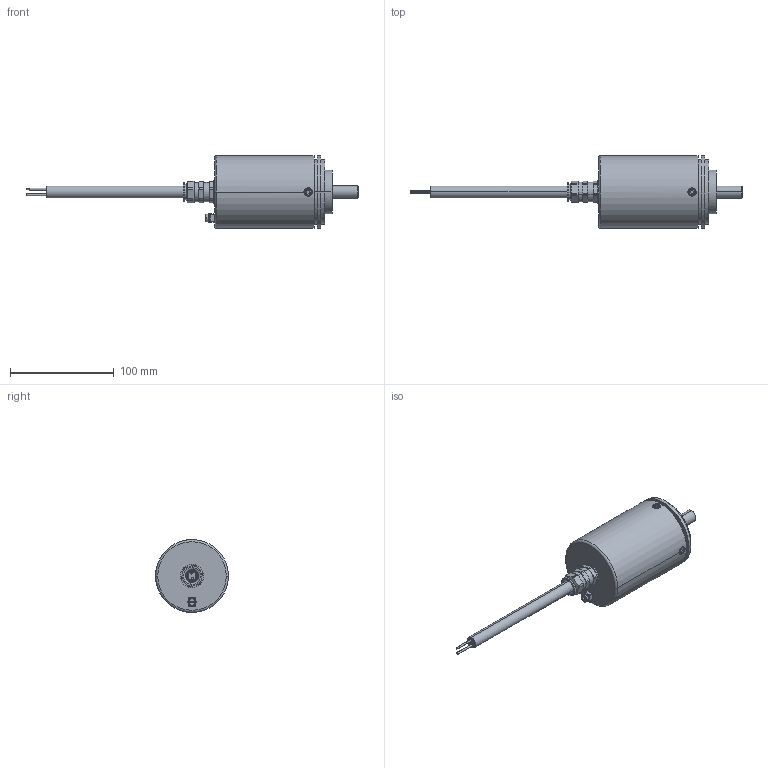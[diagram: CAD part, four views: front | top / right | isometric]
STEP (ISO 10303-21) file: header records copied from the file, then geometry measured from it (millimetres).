
FILE_DESCRIPTION (( 'STEP AP203' ), '1' );
FILE_NAME ('8.7014FSX.11X1.XXXX.XXXX.STEP', '2013-07-25T12:37:34', ( 'Admin' ), ( 'Fritz Kübler GmbH' ), 'SwSTEP 2.0', 'SolidWorks 2012', '' );
FILE_SCHEMA (( 'CONFIG_CONTROL_DESIGN' ));
Length unit declared in the file: millimetre
Products named in the file (1): 8.7014FSX.11X1.XXXX.XXXX
Bounding box: 319.3 x 70 x 70 mm (x, y, z)
Volume: 279622.3 mm3; surface area: 98165.7 mm2
Topology: 21 solids, 22 shells, 1050 faces, 2541 edges, 1582 vertices
Faces by surface type: cylinder 424, plane 355, cone 170, torus 81, sphere 20
Entity records: 31639 total; most frequent: CARTESIAN_POINT 6712, DIRECTION 5531, ORIENTED_EDGE 4914, EDGE_CURVE 2457, AXIS2_PLACEMENT_3D 2155, VERTEX_POINT 1552, LINE 1221, EDGE_LOOP 1221
